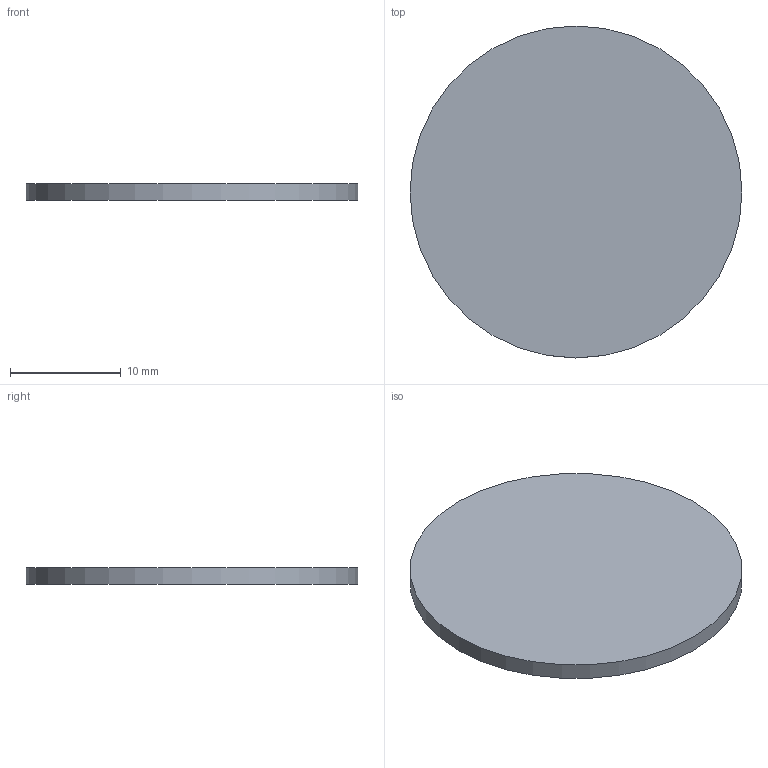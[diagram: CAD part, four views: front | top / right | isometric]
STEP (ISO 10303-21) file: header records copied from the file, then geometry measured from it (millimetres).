
FILE_DESCRIPTION(/* description */ ('Alibre Inc.'),/* implementation_level */ '2;1');
FILE_NAME(/* name */ 'export0',/* time_stamp */ '2013-07-17T08:48:24-06:00',/* author */ (''),/* organization */ (''),/* preprocessor_version */ 'ST-DEVELOPER v14',/* originating_system */ 'Alibre',/* authorisation */ '');
FILE_SCHEMA (('ALIBRE_SCHEMA','CONFIG_CONTROL_DESIGN'));
Length unit declared in the file: centimetre
Products named in the file (1): ID_1
Bounding box: 30 x 30 x 1.5 mm (x, y, z)
Volume: 1060.3 mm3; surface area: 1555.1 mm2
Topology: 1 solids, 1 shells, 3 faces, 3 edges, 2 vertices
Faces by surface type: plane 2, cylinder 1
Full cylindrical faces by diameter (mm): 30 x1
Entity records: 395 total; most frequent: INTEGERVALUEPAIR 33, REALVALUEPAIR 24, CARTESIAN_POINT 22, DIRECTION 21, STRINGVALUEPAIR 15, BOOLEANVALUEPAIR 13, AXIS2_PLACEMENT_3D 9, PRODUCTVERSION 9
